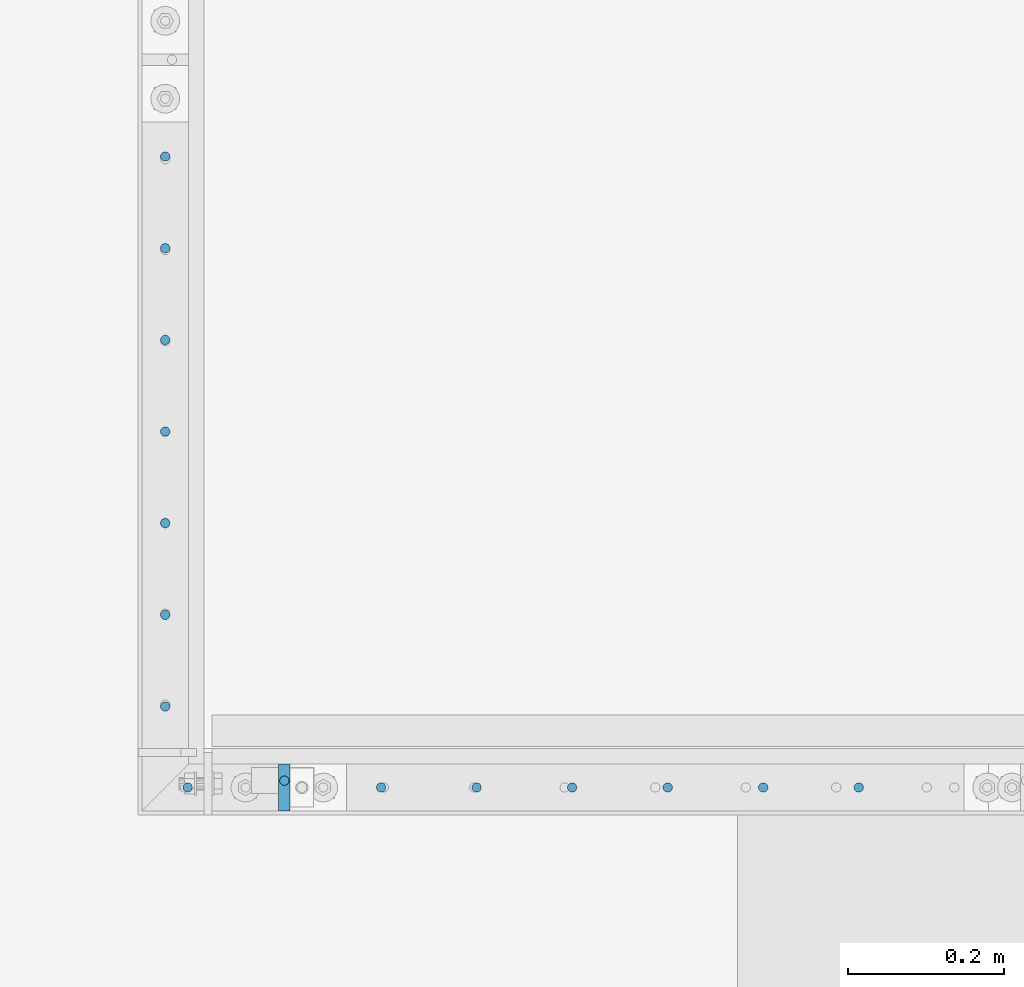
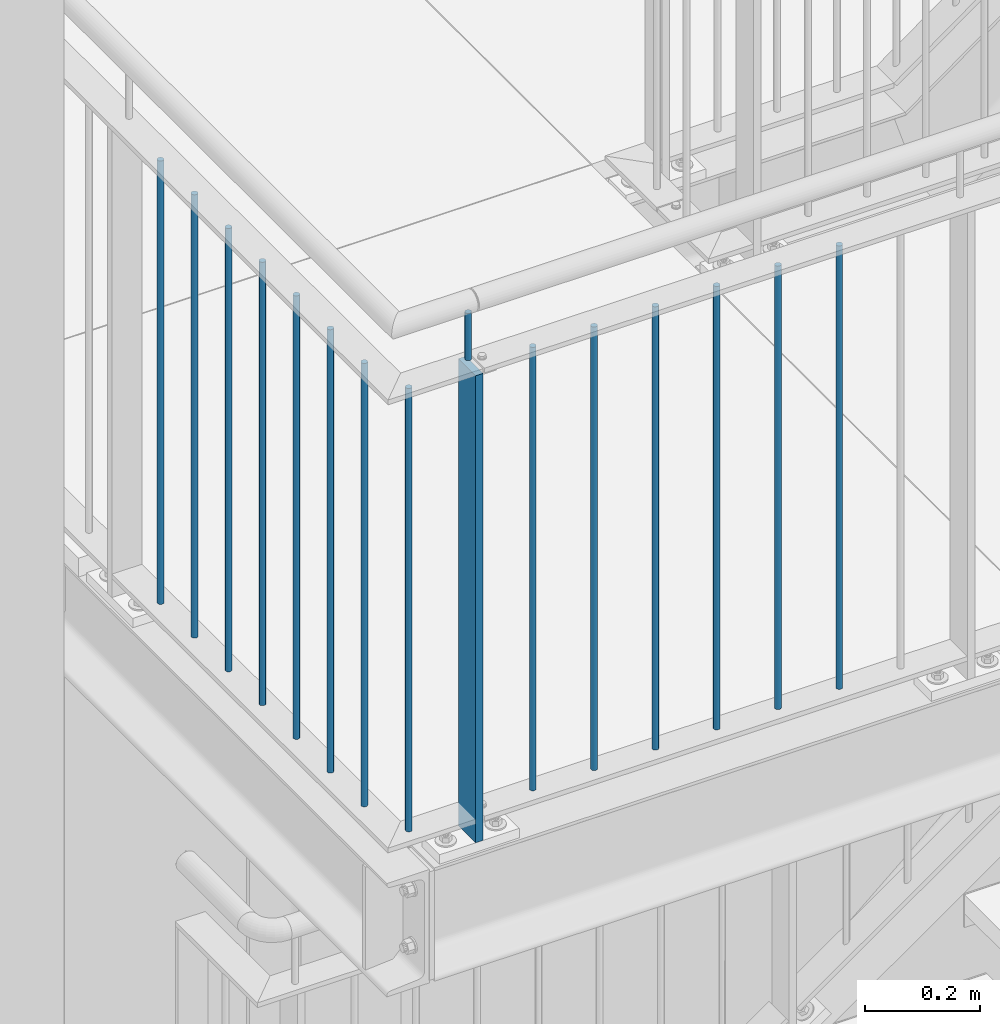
# One storey, part 4 of 825: 16 columns.
"""IFC2X3 building model written with IfcOpenShell, lengths in millimetres."""

from ifc_helpers import new_model, entity, si_unit, converted_unit, frame, origin, origin_with_axes, origin_2d, place, context, project, spatial, rectangle, circle, extrude, clip, halfspace, material, element, save


model = new_model("IFC2X3")

# Units and contexts
model_context = context("Model", 3, precision=1e-09, world=origin_with_axes())
ifc_project = project(units=[si_unit("LENGTHUNIT", "METRE", prefix="MILLI"), si_unit("AREAUNIT", "SQUARE_METRE"), si_unit("VOLUMEUNIT", "CUBIC_METRE"), converted_unit("PLANEANGLEUNIT", "DEGREE", entity("IfcPlaneAngleMeasure", 0.01745329), si_unit("PLANEANGLEUNIT", "RADIAN"), dimensions=[0, 0, 0, 0, 0, 0, 0])], contexts=[model_context])

# Site, building, storey
site_placement = place(None, origin_with_axes())
site = spatial("IfcSite", under=ifc_project, at=site_placement, Name="Cnopf'sche Kinderklinik", CompositionType="ELEMENT")
building_placement = place(site_placement, origin_with_axes())
building = spatial("IfcBuilding", under=site, at=building_placement, Name="Struktur 1", CompositionType="ELEMENT")
storey_placement = place(building_placement, origin_with_axes())
storey = spatial("IfcBuildingStorey", under=building, at=storey_placement, Name="Default Storey", CompositionType="ELEMENT", Elevation=0.0)

# Columns
ifc_material = material(Name="S235JR")
column_1_placement = place(None, frame((3424.79154585, 4526.736971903, 8359.723292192), z_axis=(0.0, 0.0, 1.0), x_axis=(-1.0, 0.0, 0.0)))
element("IfcColumn", 1, at=column_1_placement, inside=storey, material=ifc_material, Name="Railing_Post_Landing#13", ObjectType="Railing_Post_Landing#13", context=model_context, shape_type="Clipping", body=[
    clip(clip(extrude(rectangle(XDim=15.0, YDim=60.0, at=origin_2d()), origin(), (0.0, 0.0, -1.0), 1070.646584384), halfspace(frame((3424.79154585, 4526.736971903, -1019.722292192), z_axis=(0.0, 0.0, 1.0), x_axis=(-1.0, 0.0, 0.0)), True)), halfspace(frame((3424.79154585, 4526.736971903, -30.924292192), z_axis=(0.0, 0.0, -1.0), x_axis=(1.0, 0.0, 0.0)), True)),
])
column_2_placement = place(None, frame((4162.791664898, 4526.736971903, 8342.285281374), z_axis=(0.0, 0.0, 1.0), x_axis=(-1.0, 0.0, 0.0)))
element("IfcColumn", 2, at=column_2_placement, inside=storey, material=ifc_material, Name="Railing_Picket_Landing#84", ObjectType="Railing_Picket_Landing#84", context=model_context, shape_type="Clipping", body=[
    clip(clip(extrude(circle(Radius=6.0, at=origin_2d()), origin(), (0.0, 0.0, -1.0), 965.770562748), halfspace(frame((4162.791664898, 4526.736971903, -13.486281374), z_axis=(0.0, 0.0, -1.0), x_axis=(1.0, 0.0, 0.0)), True)), halfspace(frame((4162.791664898, 4526.736971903, -952.284281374), z_axis=(0.0, 0.0, 1.0), x_axis=(-1.0, 0.0, 0.0)), True)),
])
column_3_placement = place(None, frame((4040.041641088, 4526.736971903, 8342.285281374), z_axis=(0.0, 0.0, 1.0), x_axis=(-1.0, 0.0, 0.0)))
element("IfcColumn", 3, at=column_3_placement, inside=storey, material=ifc_material, Name="Railing_Picket_Landing#85", ObjectType="Railing_Picket_Landing#85", context=model_context, shape_type="Clipping", body=[
    clip(clip(extrude(circle(Radius=6.0, at=origin_2d()), origin(), (0.0, 0.0, -1.0), 965.770562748), halfspace(frame((4040.041641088, 4526.736971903, -13.486281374), z_axis=(0.0, 0.0, -1.0), x_axis=(1.0, 0.0, 0.0)), True)), halfspace(frame((4040.041641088, 4526.736971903, -952.284281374), z_axis=(0.0, 0.0, 1.0), x_axis=(-1.0, 0.0, 0.0)), True)),
])
column_4_placement = place(None, frame((3917.291617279, 4526.736971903, 8342.285281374), z_axis=(0.0, 0.0, 1.0), x_axis=(-1.0, 0.0, 0.0)))
element("IfcColumn", 4, at=column_4_placement, inside=storey, material=ifc_material, Name="Railing_Picket_Landing#86", ObjectType="Railing_Picket_Landing#86", context=model_context, shape_type="Clipping", body=[
    clip(clip(extrude(circle(Radius=6.0, at=origin_2d()), origin(), (0.0, 0.0, -1.0), 965.770562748), halfspace(frame((3917.291617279, 4526.736971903, -13.486281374), z_axis=(0.0, 0.0, -1.0), x_axis=(1.0, 0.0, 0.0)), True)), halfspace(frame((3917.291617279, 4526.736971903, -952.284281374), z_axis=(0.0, 0.0, 1.0), x_axis=(-1.0, 0.0, 0.0)), True)),
])
column_5_placement = place(None, frame((3794.541593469, 4526.736971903, 8342.285281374), z_axis=(0.0, 0.0, 1.0), x_axis=(-1.0, 0.0, 0.0)))
element("IfcColumn", 5, at=column_5_placement, inside=storey, material=ifc_material, Name="Railing_Picket_Landing#87", ObjectType="Railing_Picket_Landing#87", context=model_context, shape_type="Clipping", body=[
    clip(clip(extrude(circle(Radius=6.0, at=origin_2d()), origin(), (0.0, 0.0, -1.0), 965.770562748), halfspace(frame((3794.541593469, 4526.736971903, -13.486281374), z_axis=(0.0, 0.0, -1.0), x_axis=(1.0, 0.0, 0.0)), True)), halfspace(frame((3794.541593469, 4526.736971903, -952.284281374), z_axis=(0.0, 0.0, 1.0), x_axis=(-1.0, 0.0, 0.0)), True)),
])
column_6_placement = place(None, frame((3671.79156966, 4526.736971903, 8342.285281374), z_axis=(0.0, 0.0, 1.0), x_axis=(-1.0, 0.0, 0.0)))
element("IfcColumn", 6, at=column_6_placement, inside=storey, material=ifc_material, Name="Railing_Picket_Landing#88", ObjectType="Railing_Picket_Landing#88", context=model_context, shape_type="Clipping", body=[
    clip(clip(extrude(circle(Radius=6.0, at=origin_2d()), origin(), (0.0, 0.0, -1.0), 965.770562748), halfspace(frame((3671.79156966, 4526.736971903, -13.486281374), z_axis=(0.0, 0.0, -1.0), x_axis=(1.0, 0.0, 0.0)), True)), halfspace(frame((3671.79156966, 4526.736971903, -952.284281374), z_axis=(0.0, 0.0, 1.0), x_axis=(-1.0, 0.0, 0.0)), True)),
])
column_7_placement = place(None, frame((3549.04154585, 4526.736971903, 8342.285281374), z_axis=(0.0, 0.0, 1.0), x_axis=(-1.0, 0.0, 0.0)))
element("IfcColumn", 7, at=column_7_placement, inside=storey, material=ifc_material, Name="Railing_Picket_Landing#89", ObjectType="Railing_Picket_Landing#89", context=model_context, shape_type="Clipping", body=[
    clip(clip(extrude(circle(Radius=6.0, at=origin_2d()), origin(), (0.0, 0.0, -1.0), 965.770562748), halfspace(frame((3549.04154585, 4526.736971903, -13.486281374), z_axis=(0.0, 0.0, -1.0), x_axis=(1.0, 0.0, 0.0)), True)), halfspace(frame((3549.04154585, 4526.736971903, -952.284281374), z_axis=(0.0, 0.0, 1.0), x_axis=(-1.0, 0.0, 0.0)), True)),
])
column_8_placement = place(None, frame((3300.54154585, 4526.736971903, 8342.285281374), z_axis=(0.0, 0.0, 1.0), x_axis=(-1.0, 0.0, 0.0)))
element("IfcColumn", 8, at=column_8_placement, inside=storey, material=ifc_material, Name="Railing_Picket_Landing#90", ObjectType="Railing_Picket_Landing#90", context=model_context, shape_type="Clipping", body=[
    clip(clip(extrude(circle(Radius=6.0, at=origin_2d()), origin(), (0.0, 0.0, -1.0), 965.770562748), halfspace(frame((3300.54154585, 4526.736971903, -13.486281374), z_axis=(0.0, 0.0, -1.0), x_axis=(1.0, 0.0, 0.0)), True)), halfspace(frame((3300.54154585, 4526.736971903, -952.284281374), z_axis=(0.0, 0.0, 1.0), x_axis=(-1.0, 0.0, 0.0)), True)),
])
column_9_placement = place(None, frame((3271.713402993, 4630.705992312, 8342.285281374), z_axis=(0.0, 0.0, 1.0), x_axis=(0.0, 1.0, 0.0)))
element("IfcColumn", 9, at=column_9_placement, inside=storey, material=ifc_material, Name="Railing_Picket_Landing#91", ObjectType="Railing_Picket_Landing#91", context=model_context, shape_type="Clipping", body=[
    clip(clip(extrude(circle(Radius=6.0, at=origin_2d()), origin(), (0.0, 0.0, -1.0), 965.770562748), halfspace(frame((-4630.705992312, 3271.713402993, -13.486281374), z_axis=(0.0, 0.0, -1.0), x_axis=(0.0, 1.0, 0.0)), True)), halfspace(frame((-4630.705992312, 3271.713402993, -952.284281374), z_axis=(0.0, 0.0, 1.0), x_axis=(0.0, -1.0, 0.0)), True)),
])
column_10_placement = place(None, frame((3271.713402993, 4748.503155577, 8342.285281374), z_axis=(0.0, 0.0, 1.0), x_axis=(0.0, 1.0, 0.0)))
element("IfcColumn", 10, at=column_10_placement, inside=storey, material=ifc_material, Name="Railing_Picket_Landing#92", ObjectType="Railing_Picket_Landing#92", context=model_context, shape_type="Clipping", body=[
    clip(clip(extrude(circle(Radius=6.0, at=origin_2d()), origin(), (0.0, 0.0, -1.0), 965.770562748), halfspace(frame((-4748.503155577, 3271.713402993, -13.486281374), z_axis=(0.0, 0.0, -1.0), x_axis=(0.0, 1.0, 0.0)), True)), halfspace(frame((-4748.503155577, 3271.713402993, -952.284281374), z_axis=(0.0, 0.0, 1.0), x_axis=(0.0, -1.0, 0.0)), True)),
])
column_11_placement = place(None, frame((3271.713402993, 4866.300318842, 8342.285281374), z_axis=(0.0, 0.0, 1.0), x_axis=(0.0, 1.0, 0.0)))
element("IfcColumn", 11, at=column_11_placement, inside=storey, material=ifc_material, Name="Railing_Picket_Landing#93", ObjectType="Railing_Picket_Landing#93", context=model_context, shape_type="Clipping", body=[
    clip(clip(extrude(circle(Radius=6.0, at=origin_2d()), origin(), (0.0, 0.0, -1.0), 965.770562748), halfspace(frame((-4866.300318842, 3271.713402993, -13.486281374), z_axis=(0.0, 0.0, -1.0), x_axis=(0.0, 1.0, 0.0)), True)), halfspace(frame((-4866.300318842, 3271.713402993, -952.284281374), z_axis=(0.0, 0.0, 1.0), x_axis=(0.0, -1.0, 0.0)), True)),
])
column_12_placement = place(None, frame((3271.713402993, 4984.097482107, 8342.285281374), z_axis=(0.0, 0.0, 1.0), x_axis=(0.0, 1.0, 0.0)))
element("IfcColumn", 12, at=column_12_placement, inside=storey, material=ifc_material, Name="Railing_Picket_Landing#94", ObjectType="Railing_Picket_Landing#94", context=model_context, shape_type="Clipping", body=[
    clip(clip(extrude(circle(Radius=6.0, at=origin_2d()), origin(), (0.0, 0.0, -1.0), 965.770562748), halfspace(frame((-4984.097482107, 3271.713402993, -13.486281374), z_axis=(0.0, 0.0, -1.0), x_axis=(0.0, 1.0, 0.0)), True)), halfspace(frame((-4984.097482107, 3271.713402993, -952.284281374), z_axis=(0.0, 0.0, 1.0), x_axis=(0.0, -1.0, 0.0)), True)),
])
column_13_placement = place(None, frame((3271.713402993, 5101.894645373, 8342.285281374), z_axis=(0.0, 0.0, 1.0), x_axis=(0.0, 1.0, 0.0)))
element("IfcColumn", 13, at=column_13_placement, inside=storey, material=ifc_material, Name="Railing_Picket_Landing#95", ObjectType="Railing_Picket_Landing#95", context=model_context, shape_type="Clipping", body=[
    clip(clip(extrude(circle(Radius=6.0, at=origin_2d()), origin(), (0.0, 0.0, -1.0), 965.770562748), halfspace(frame((-5101.894645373, 3271.713402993, -13.486281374), z_axis=(0.0, 0.0, -1.0), x_axis=(0.0, 1.0, 0.0)), True)), halfspace(frame((-5101.894645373, 3271.713402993, -952.284281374), z_axis=(0.0, 0.0, 1.0), x_axis=(0.0, -1.0, 0.0)), True)),
])
column_14_placement = place(None, frame((3271.713402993, 5219.691808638, 8342.285281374), z_axis=(0.0, 0.0, 1.0), x_axis=(0.0, 1.0, 0.0)))
element("IfcColumn", 14, at=column_14_placement, inside=storey, material=ifc_material, Name="Railing_Picket_Landing#96", ObjectType="Railing_Picket_Landing#96", context=model_context, shape_type="Clipping", body=[
    clip(clip(extrude(circle(Radius=6.0, at=origin_2d()), origin(), (0.0, 0.0, -1.0), 965.770562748), halfspace(frame((-5219.691808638, 3271.713402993, -13.486281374), z_axis=(0.0, 0.0, -1.0), x_axis=(0.0, 1.0, 0.0)), True)), halfspace(frame((-5219.691808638, 3271.713402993, -952.284281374), z_axis=(0.0, 0.0, 1.0), x_axis=(0.0, -1.0, 0.0)), True)),
])
column_15_placement = place(None, frame((3271.713402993, 5337.488971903, 8342.285281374), z_axis=(0.0, 0.0, 1.0), x_axis=(0.0, 1.0, 0.0)))
element("IfcColumn", 15, at=column_15_placement, inside=storey, material=ifc_material, Name="Railing_Picket_Landing#97", ObjectType="Railing_Picket_Landing#97", context=model_context, shape_type="Clipping", body=[
    clip(clip(extrude(circle(Radius=6.0, at=origin_2d()), origin(), (0.0, 0.0, -1.0), 965.770562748), halfspace(frame((-5337.488971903, 3271.713402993, -13.486281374), z_axis=(0.0, 0.0, -1.0), x_axis=(0.0, 1.0, 0.0)), True)), halfspace(frame((-5337.488971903, 3271.713402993, -952.284281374), z_axis=(0.0, 0.0, 1.0), x_axis=(0.0, -1.0, 0.0)), True)),
])
column_16_placement = place(None, frame((3424.79154585, 4535.536971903, 8447.285281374), z_axis=(0.0, 0.0, 1.0), x_axis=(0.0, 1.0, 0.0)))
element("IfcColumn", 16, at=column_16_placement, inside=storey, material=ifc_material, Name="Bar#13", ObjectType="Bar#13", context=model_context, shape_type="Clipping", body=[
    clip(clip(extrude(circle(Radius=6.0, at=origin_2d()), origin(), (0.0, 0.0, -1.0), 116.970562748), halfspace(frame((-4535.536971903, 3424.79154585, -8.486281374), z_axis=(0.0, 0.0, -1.0), x_axis=(0.0, 1.0, 0.0)), True)), halfspace(frame((-4535.536971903, 3424.79154585, -108.484281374), z_axis=(0.0, 0.0, 1.0), x_axis=(0.0, -1.0, 0.0)), True)),
])

save(model, "model.ifc")
